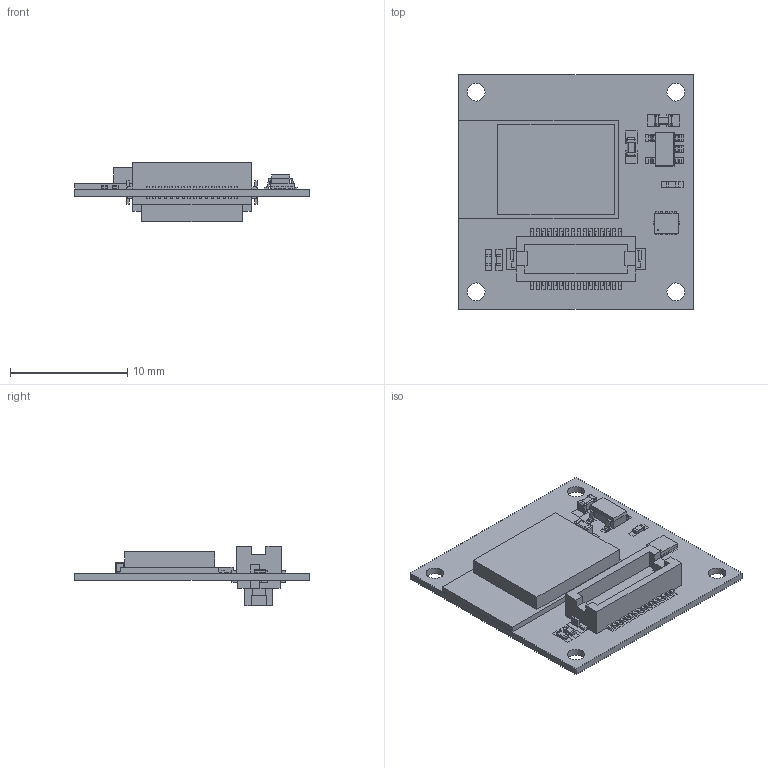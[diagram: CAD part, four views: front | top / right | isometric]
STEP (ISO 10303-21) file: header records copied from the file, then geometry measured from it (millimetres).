
FILE_DESCRIPTION(('FreeCAD Model'),'2;1');
FILE_NAME('/home/devy/MEGA/TinyCircuits/Assets/BoardsANDBoardModels_2/Shields/TinyCircuits-TinyShield-BLE-ASD2116/cad/TinyShield_STBLE_ASD2116_REV2-STEP.step','2020-07-22T14:48:59',('Author'),(''), 'Open CASCADE STEP processor 7.4','FreeCAD','Unknown');
FILE_SCHEMA(('AUTOMOTIVE_DESIGN { 1 0 10303 214 1 1 1 1 }'));
Products named in the file (1): TinyShield_STBLE_ASD2116_REV2-STEP
Bounding box: 20 x 20 x 5.1 mm (x, y, z)
Volume: 760.6 mm3; surface area: 2645.9 mm2
Topology: 245 solids, 245 shells, 2319 faces, 5831 edges, 4551 vertices
Faces by surface type: plane 2157, cylinder 110, sphere 32, revolution 20
Full cylindrical faces by diameter (mm): 0.5 x4, 0.602 x8, 1.502 x8
Entity records: 156593 total; most frequent: CARTESIAN_POINT 24737, DIRECTION 20894, LINE 15170, VECTOR 15170, ORIENTED_EDGE 10382, PCURVE 10382, DEFINITIONAL_REPRESENTATION 10382, EDGE_CURVE 5191
